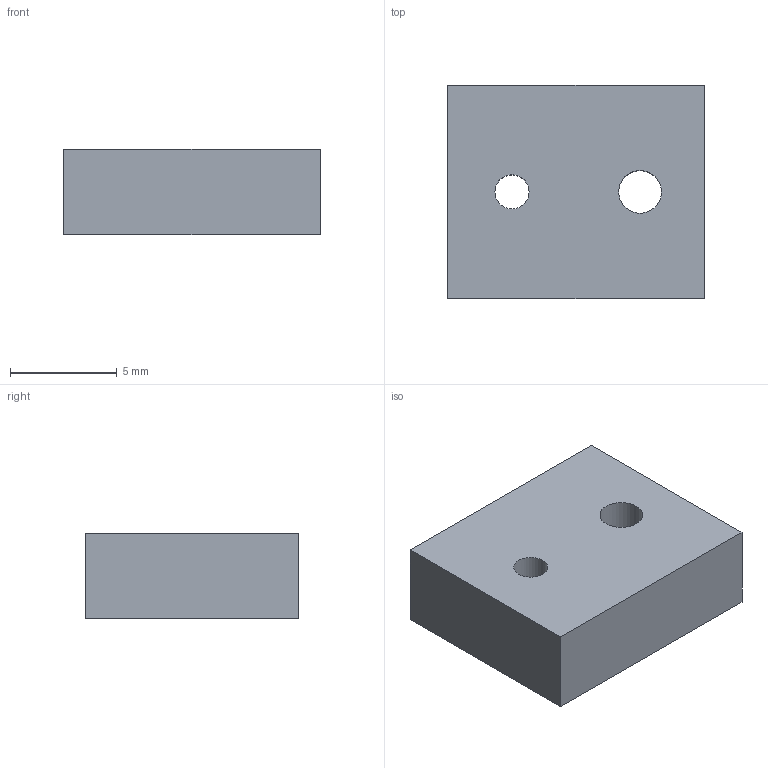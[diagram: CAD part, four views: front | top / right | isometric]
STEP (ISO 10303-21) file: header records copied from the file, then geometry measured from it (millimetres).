
FILE_DESCRIPTION(('Open CASCADE Model'),'2;1');
FILE_NAME('Open CASCADE Shape Model','2000-01-01T00:00:00',('Author'),( 'Open CASCADE'),'Open CASCADE STEP processor 7.9','Open CASCADE 7.9' ,'Unknown');
FILE_SCHEMA(('AUTOMOTIVE_DESIGN { 1 0 10303 214 1 1 1 1 }'));
Length unit declared in the file: millimetre
Products named in the file (1): Open CASCADE STEP translator 7.9 1
Bounding box: 12 x 10 x 4 mm (x, y, z)
Volume: 459.4 mm3; surface area: 450.9 mm2
Topology: 1 solids, 1 shells, 8 faces, 18 edges, 12 vertices
Faces by surface type: plane 6, cylinder 2
Full cylindrical faces by diameter (mm): 1.6 x1, 2 x1
Entity records: 478 total; most frequent: DIRECTION 76, CARTESIAN_POINT 75, LINE 46, VECTOR 46, ORIENTED_EDGE 36, PCURVE 36, DEFINITIONAL_REPRESENTATION 36, EDGE_CURVE 18
